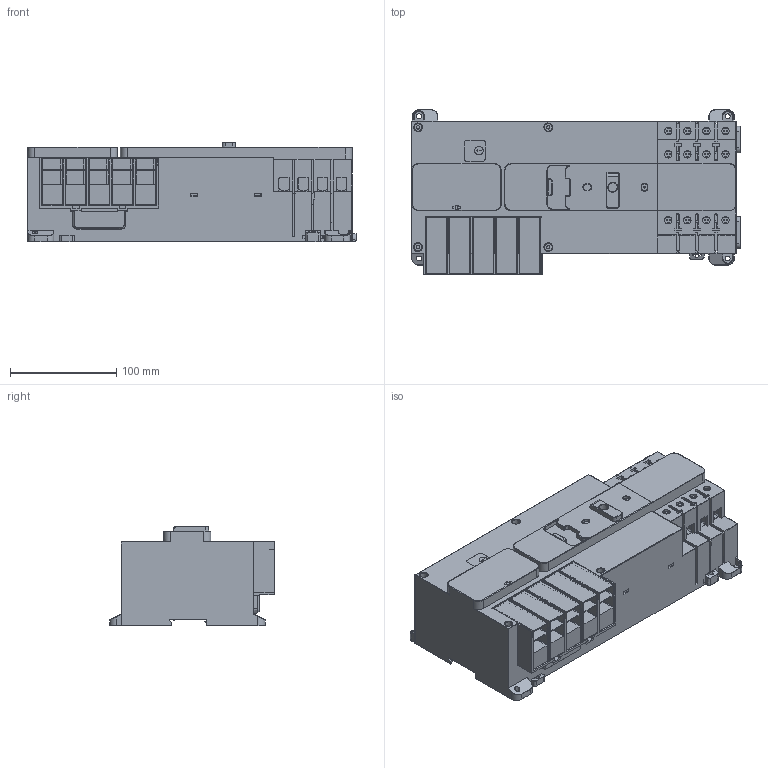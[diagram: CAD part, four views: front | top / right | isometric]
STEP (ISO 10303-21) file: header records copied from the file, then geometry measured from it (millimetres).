
FILE_DESCRIPTION((''),'2;1');
FILE_NAME('R1_IEC_4P_RS_3D-SIMPLIFIED_ASM','2021-12-08T15:33:06',('SESA530330'),('Schneider-Electric'),'CREO PARAMETRIC BY PTC INC, 2019471','CREO PARAMETRIC BY PTC INC, 2019471','');
FILE_SCHEMA(('CONFIG_CONTROL_DESIGN'));
Products named in the file (3): SS_1; R1_IEC_4P_RS_3D-SIMPLIFIED_ASM__ASM; R1_IEC_4P_RS_3D-SIMPLIFIED_ASM
Assembly tree (2 placements, depth 3):
  R1_IEC_4P_RS_3D-SIMPLIFIED_ASM
    R1_IEC_4P_RS_3D-SIMPLIFIED_ASM__ASM
      SS_1
Bounding box: 310 x 155.3 x 94.25 mm (x, y, z)
Volume: 2969664.6 mm3; surface area: 288871.9 mm2
Topology: 1 solids, 2 shells, 1952 faces, 5352 edges, 3505 vertices
Faces by surface type: plane 1278, cylinder 476, extrusion 92, torus 46, sphere 26, bspline 18, cone 16
Entity records: 64521 total; most frequent: CARTESIAN_POINT 14802, ORIENTED_EDGE 10648, DIRECTION 9721, EDGE_CURVE 5324, VECTOR 3949, LINE 3857, VERTEX_POINT 3505, AXIS2_PLACEMENT_3D 2886
